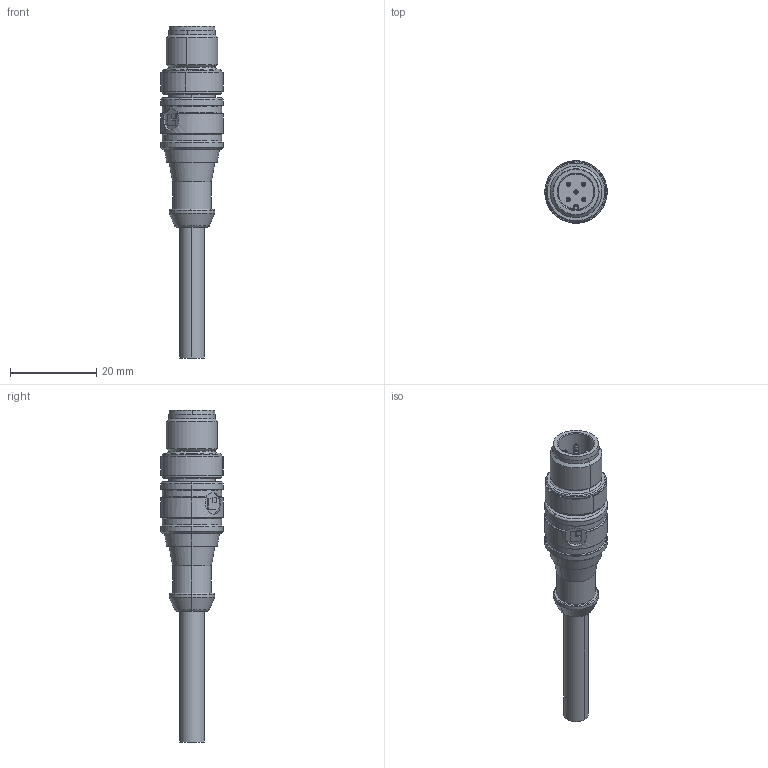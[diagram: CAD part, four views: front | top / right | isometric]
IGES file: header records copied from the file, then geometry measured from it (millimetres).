
Start section: Elysium IGES Interface
Global section: file name: C:\Data\JobServerData\JobServer Files\a153d264-2d73-4455-b76b-b4468fac7ec5\work\output\model.igs; native system: PTC Creo Elements/Direct Modeling 19.0B  21-Mar-2015; preprocessor: Creo Element/Direct IGES_3D V2.2; author: Unknown; organization: Unknown; date: 20180411.095512; units: millimetre
Bounding box: 14.5 x 14.5 x 77 mm (x, y, z)
Volume: 5670.4 mm3; surface area: 3095.3 mm2
Topology: 1 solids, 1 shells, 165 faces, 391 edges, 250 vertices
Faces by surface type: bspline 165
